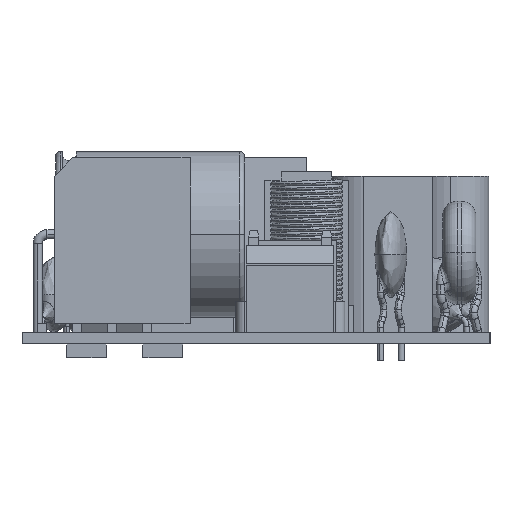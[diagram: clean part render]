
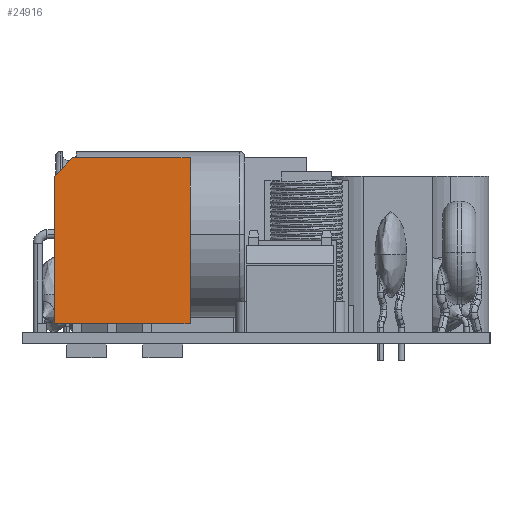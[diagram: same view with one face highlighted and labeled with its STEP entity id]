
A CAD part, left-side view. The second image highlights one B-rep face of the part: STEP entity #24916.
In plain terms, the highlighted planar face has unit normal (-1, 0, 0).
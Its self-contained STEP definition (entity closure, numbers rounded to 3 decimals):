
#95 = PLANE ( 'NONE',  #27984 ) ;
#2125 = CARTESIAN_POINT ( 'NONE',  ( 0.801, 33.663, 2.2 ) ) ;
#2587 = EDGE_LOOP ( 'NONE', ( #47053, #47283, #17297, #33483, #38435 ) ) ;
#4914 = VECTOR ( 'NONE', #9105, 1000. ) ;
#5590 = CARTESIAN_POINT ( 'NONE',  ( 0.801, 46.413, 20.2 ) ) ;
#6290 = VERTEX_POINT ( 'NONE', #5590 ) ;
#8502 = VERTEX_POINT ( 'NONE', #28520 ) ;
#8652 = LINE ( 'NONE', #53937, #34874 ) ;
#9105 = DIRECTION ( 'NONE',  ( 0., -1., 0. ) ) ;
#9157 = FACE_OUTER_BOUND ( 'NONE', #2587, .T. ) ;
#10459 = CARTESIAN_POINT ( 'NONE',  ( 0.801, 33.663, 2.2 ) ) ;
#10678 = VECTOR ( 'NONE', #41721, 1000. ) ;
#13046 = VERTEX_POINT ( 'NONE', #2125 ) ;
#16302 = EDGE_CURVE ( 'NONE', #6290, #42767, #40637, .T. ) ;
#17273 = CARTESIAN_POINT ( 'NONE',  ( 0.801, 33.663, 20.2 ) ) ;
#17297 = ORIENTED_EDGE ( 'NONE', *, *, #51611, .T. ) ;
#17936 = VECTOR ( 'NONE', #51572, 1000. ) ;
#18371 = LINE ( 'NONE', #19251, #10678 ) ;
#19251 = CARTESIAN_POINT ( 'NONE',  ( 0.801, 33.663, 20.2 ) ) ;
#20867 = LINE ( 'NONE', #10459, #17936 ) ;
#22571 = CARTESIAN_POINT ( 'NONE',  ( 0.801, 33.663, 20.2 ) ) ;
#24916 = ADVANCED_FACE ( 'NONE', ( #9157 ), #95, .F. ) ;
#27228 = DIRECTION ( 'NONE',  ( 0., 0., -1. ) ) ;
#27984 = AXIS2_PLACEMENT_3D ( 'NONE', #22571, #35725, #27228 ) ;
#28520 = CARTESIAN_POINT ( 'NONE',  ( 0.801, 48.413, 2.2 ) ) ;
#33483 = ORIENTED_EDGE ( 'NONE', *, *, #42601, .T. ) ;
#34874 = VECTOR ( 'NONE', #39601, 1000. ) ;
#35725 = DIRECTION ( 'NONE',  ( 1., 0., 0. ) ) ;
#38435 = ORIENTED_EDGE ( 'NONE', *, *, #53717, .F. ) ;
#39601 = DIRECTION ( 'NONE',  ( 0., 0., -1. ) ) ;
#40631 = CARTESIAN_POINT ( 'NONE',  ( 0.801, 46.413, 20.2 ) ) ;
#40637 = LINE ( 'NONE', #48828, #4914 ) ;
#41721 = DIRECTION ( 'NONE',  ( 0., 0., -1. ) ) ;
#42601 = EDGE_CURVE ( 'NONE', #8502, #13046, #20867, .T. ) ;
#42767 = VERTEX_POINT ( 'NONE', #17273 ) ;
#47022 = VECTOR ( 'NONE', #54087, 1000. ) ;
#47053 = ORIENTED_EDGE ( 'NONE', *, *, #16302, .F. ) ;
#47283 = ORIENTED_EDGE ( 'NONE', *, *, #53380, .T. ) ;
#48828 = CARTESIAN_POINT ( 'NONE',  ( 0.801, 33.663, 20.2 ) ) ;
#50858 = LINE ( 'NONE', #40631, #47022 ) ;
#51572 = DIRECTION ( 'NONE',  ( 0., -1., 0. ) ) ;
#51611 = EDGE_CURVE ( 'NONE', #53501, #8502, #8652, .T. ) ;
#53159 = CARTESIAN_POINT ( 'NONE',  ( 0.801, 48.413, 18.2 ) ) ;
#53380 = EDGE_CURVE ( 'NONE', #6290, #53501, #50858, .T. ) ;
#53501 = VERTEX_POINT ( 'NONE', #53159 ) ;
#53717 = EDGE_CURVE ( 'NONE', #42767, #13046, #18371, .T. ) ;
#53937 = CARTESIAN_POINT ( 'NONE',  ( 0.801, 48.413, 20.2 ) ) ;
#54087 = DIRECTION ( 'NONE',  ( 0., 0.707, -0.707 ) ) ;
